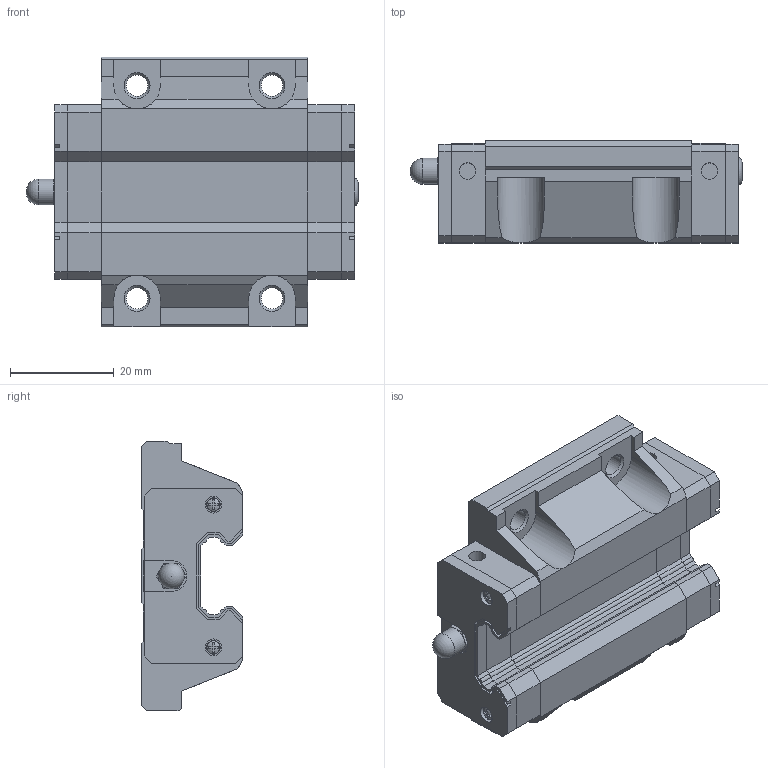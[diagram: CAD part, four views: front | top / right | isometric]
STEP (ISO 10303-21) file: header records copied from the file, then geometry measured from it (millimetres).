
FILE_DESCRIPTION(('FreeCAD Model'),'2;1');
FILE_NAME('Open CASCADE Shape Model','2024-12-05T09:57:15',('Author'),( ''),'Open CASCADE STEP processor 7.6','FreeCAD','Unknown');
FILE_SCHEMA(('AUTOMOTIVE_DESIGN { 1 0 10303 214 1 1 1 1 }'));
Length unit declared in the file: millimetre
Products named in the file (7): EW15CC; _GEW15CC_slider; _GEC15_C002; _GEC15_P002; _GH15_SCREW004; _GH15_BOLT001; _GH15-_G001
Assembly tree (11 placements, depth 2):
  EW15CC
    _GEW15CC_slider
    _GEC15_C002  x2
    _GEC15_P002  x2
    _GH15_SCREW004  x4
    _GH15_BOLT001
    _GH15-_G001
Bounding box: 63.97 x 19.6 x 52 mm (x, y, z)
Volume: 37457.9 mm3; surface area: 15505.8 mm2
Topology: 11 solids, 11 shells, 397 faces, 1068 edges, 705 vertices
Faces by surface type: plane 317, cylinder 54, cone 16, sphere 5, torus 5
Full cylindrical faces by diameter (mm): 2.2 x4, 2.64 x4, 3.15 x2, 3.2 x4, 3.23 x4, 4 x2, 4.134 x4, 4.3 x2, 5 x1, 5.5 x1
Entity records: 7791 total; most frequent: CARTESIAN_POINT 1416, ORIENTED_EDGE 1300, DIRECTION 1233, EDGE_CURVE 650, LINE 487, VECTOR 487, VERTEX_POINT 429, AXIS2_PLACEMENT_3D 373
